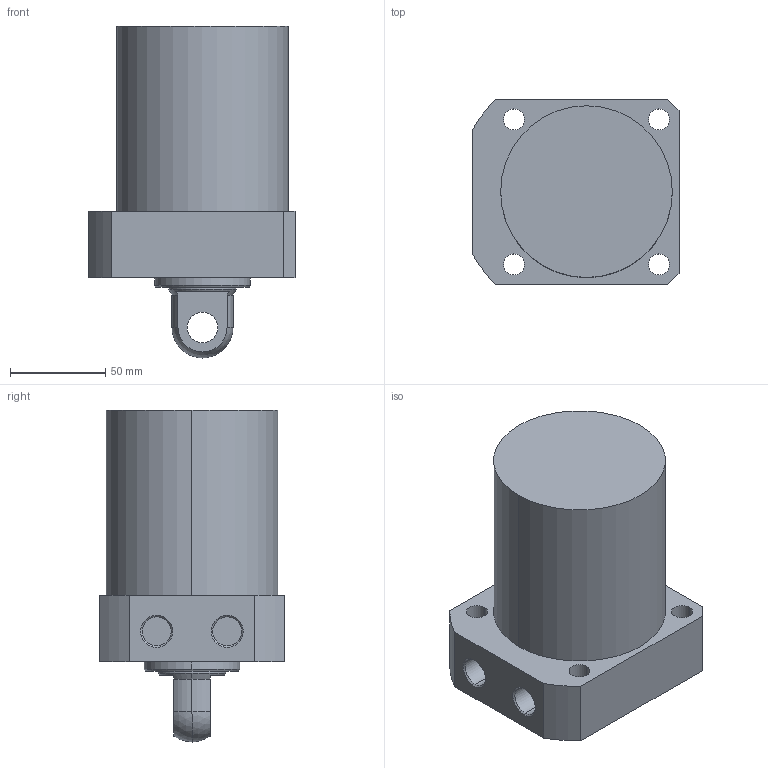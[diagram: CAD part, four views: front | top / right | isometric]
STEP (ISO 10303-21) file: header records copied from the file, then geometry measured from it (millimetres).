
FILE_DESCRIPTION (( 'STEP AP203' ), '1' );
FILE_NAME ('CLLR-090CP-075.STEP', '2019-12-19T03:26:39', ( '' ), ( '' ), 'SwSTEP 2.0', 'SolidWorks 2015', '' );
FILE_SCHEMA (( 'CONFIG_CONTROL_DESIGN' ));
Length unit declared in the file: millimetre
Products named in the file (1): CLLR-090CP-075
Bounding box: 108 x 97 x 174 mm (x, y, z)
Volume: 979559.3 mm3; surface area: 72125.7 mm2
Topology: 1 solids, 1 shells, 57 faces, 135 edges, 87 vertices
Faces by surface type: cylinder 29, plane 18, cone 8, sphere 2
Entity records: 1770 total; most frequent: DIRECTION 319, CARTESIAN_POINT 292, ORIENTED_EDGE 270, EDGE_CURVE 135, AXIS2_PLACEMENT_3D 130, VERTEX_POINT 87, EDGE_LOOP 74, CIRCLE 72
